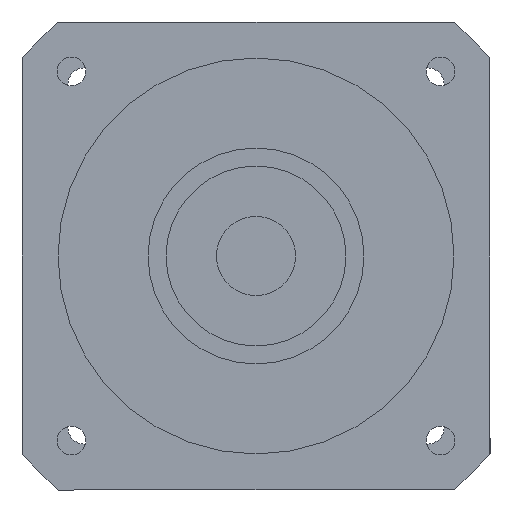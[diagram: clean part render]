
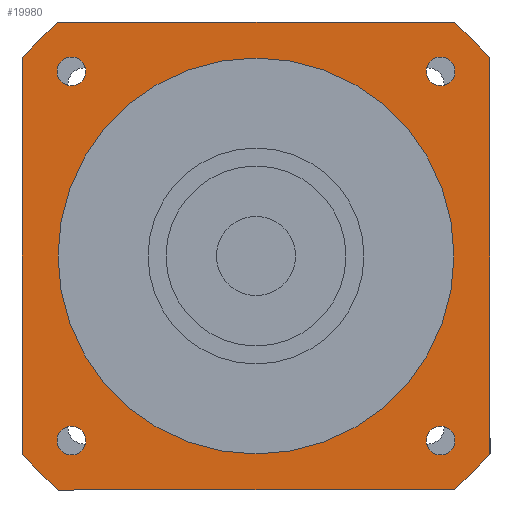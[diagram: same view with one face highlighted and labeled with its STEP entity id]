
A CAD part, left-side view. The second image highlights one B-rep face of the part: STEP entity #19980.
In plain terms, the highlighted planar face has unit normal (-1, 0, 0) as drawn and (0, 0, -1) by its records, which use the part's own axes.
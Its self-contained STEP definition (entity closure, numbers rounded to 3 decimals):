
#15990=CARTESIAN_POINT('',(-65.,54.772,-138.));
#16000=VERTEX_POINT('',#15990);
#16150=CARTESIAN_POINT('',(-65.,-54.772,-138.));
#16160=VERTEX_POINT('',#16150);
#16190=CARTESIAN_POINT('',(-65.,65.,-138.));
#16200=DIRECTION('',(0.,-1.,0.));
#16210=VECTOR('',#16200,1000.);
#16220=LINE('',#16190,#16210);
#16230=EDGE_CURVE('',#16000,#16160,#16220,.T.);
#16390=CARTESIAN_POINT('',(54.772,65.,-138.));
#16400=VERTEX_POINT('',#16390);
#16550=CARTESIAN_POINT('',(-54.772,65.,-138.));
#16560=VERTEX_POINT('',#16550);
#16590=CARTESIAN_POINT('',(65.,65.,-138.));
#16600=DIRECTION('',(-1.,0.,0.));
#16610=VECTOR('',#16600,1000.);
#16620=LINE('',#16590,#16610);
#16630=EDGE_CURVE('',#16400,#16560,#16620,.T.);
#18420=CARTESIAN_POINT('',(0.,0.,
-138.));
#18430=DIRECTION('',(0.,0.,1.));
#18440=DIRECTION('',(0.,-1.,0.));
#18450=AXIS2_PLACEMENT_3D('',#18420,#18430,#18440);
#18460=CIRCLE('',#18450,85.);
#18470=EDGE_CURVE('',#16560,#16000,#18460,.T.);
#18520=CARTESIAN_POINT('',(-65.,65.,-138.));
#18530=DIRECTION('',(0.,0.,1.));
#18540=DIRECTION('',(-1.,0.,0.));
#18550=AXIS2_PLACEMENT_3D('',#18520,#18530,#18540);
#18560=PLANE('',#18550);
#18570=CARTESIAN_POINT('',(51.265,-51.265,-138.));
#18580=DIRECTION('',(0.,0.,-1.));
#18590=DIRECTION('',(1.,0.,0.));
#18600=AXIS2_PLACEMENT_3D('',#18570,#18580,#18590);
#18610=CIRCLE('',#18600,4.);
#18620=CARTESIAN_POINT('',(55.265,-51.265,-138.));
#18630=VERTEX_POINT('',#18620);
#18640=CARTESIAN_POINT('',(51.265,-55.265,-138.));
#18650=VERTEX_POINT('',#18640);
#18660=EDGE_CURVE('',#18630,#18650,#18610,.T.);
#18670=ORIENTED_EDGE('',*,*,#18660,.F.);
#18680=CARTESIAN_POINT('',(51.265,-47.265,-138.));
#18690=VERTEX_POINT('',#18680);
#18700=EDGE_CURVE('',#18650,#18690,#18610,.T.);
#18710=ORIENTED_EDGE('',*,*,#18700,.F.);
#18720=EDGE_CURVE('',#18690,#18630,#18610,.T.);
#18730=ORIENTED_EDGE('',*,*,#18720,.F.);
#18740=EDGE_LOOP('',(#18730,#18710,#18670));
#18750=FACE_BOUND('',#18740,.T.);
#18760=CARTESIAN_POINT('',(51.265,51.265,-138.));
#18770=DIRECTION('',(0.,0.,-1.));
#18780=DIRECTION('',(0.,1.,0.));
#18790=AXIS2_PLACEMENT_3D('',#18760,#18770,#18780);
#18800=CIRCLE('',#18790,4.);
#18810=CARTESIAN_POINT('',(51.265,55.265,-138.));
#18820=VERTEX_POINT('',#18810);
#18830=CARTESIAN_POINT('',(55.265,51.265,-138.));
#18840=VERTEX_POINT('',#18830);
#18850=EDGE_CURVE('',#18820,#18840,#18800,.T.);
#18860=ORIENTED_EDGE('',*,*,#18850,.F.);
#18870=CARTESIAN_POINT('',(47.265,51.265,-138.));
#18880=VERTEX_POINT('',#18870);
#18890=EDGE_CURVE('',#18840,#18880,#18800,.T.);
#18900=ORIENTED_EDGE('',*,*,#18890,.F.);
#18910=EDGE_CURVE('',#18880,#18820,#18800,.T.);
#18920=ORIENTED_EDGE('',*,*,#18910,.F.);
#18930=EDGE_LOOP('',(#18920,#18900,#18860));
#18940=FACE_BOUND('',#18930,.T.);
#18950=CARTESIAN_POINT('',(-51.265,51.265,-138.));
#18960=DIRECTION('',(0.,0.,-1.));
#18970=DIRECTION('',(-1.,0.,0.));
#18980=AXIS2_PLACEMENT_3D('',#18950,#18960,#18970);
#18990=CIRCLE('',#18980,4.);
#19000=CARTESIAN_POINT('',(-55.265,51.265,-138.));
#19010=VERTEX_POINT('',#19000);
#19020=CARTESIAN_POINT('',(-51.265,55.265,-138.));
#19030=VERTEX_POINT('',#19020);
#19040=EDGE_CURVE('',#19010,#19030,#18990,.T.);
#19050=ORIENTED_EDGE('',*,*,#19040,.F.);
#19060=CARTESIAN_POINT('',(-51.265,47.265,-138.));
#19070=VERTEX_POINT('',#19060);
#19080=EDGE_CURVE('',#19030,#19070,#18990,.T.);
#19090=ORIENTED_EDGE('',*,*,#19080,.F.);
#19100=EDGE_CURVE('',#19070,#19010,#18990,.T.);
#19110=ORIENTED_EDGE('',*,*,#19100,.F.);
#19120=EDGE_LOOP('',(#19110,#19090,#19050));
#19130=FACE_BOUND('',#19120,.T.);
#19140=CARTESIAN_POINT('',(-51.265,-51.265,-138.));
#19150=DIRECTION('',(0.,0.,-1.));
#19160=DIRECTION('',(0.,-1.,0.));
#19170=AXIS2_PLACEMENT_3D('',#19140,#19150,#19160);
#19180=CIRCLE('',#19170,4.);
#19190=CARTESIAN_POINT('',(-51.265,-55.265,-138.));
#19200=VERTEX_POINT('',#19190);
#19210=CARTESIAN_POINT('',(-55.265,-51.265,-138.));
#19220=VERTEX_POINT('',#19210);
#19230=EDGE_CURVE('',#19200,#19220,#19180,.T.);
#19240=ORIENTED_EDGE('',*,*,#19230,.F.);
#19250=CARTESIAN_POINT('',(-47.265,-51.265,-138.));
#19260=VERTEX_POINT('',#19250);
#19270=EDGE_CURVE('',#19220,#19260,#19180,.T.);
#19280=ORIENTED_EDGE('',*,*,#19270,.F.);
#19290=EDGE_CURVE('',#19260,#19200,#19180,.T.);
#19300=ORIENTED_EDGE('',*,*,#19290,.F.);
#19310=EDGE_LOOP('',(#19300,#19280,#19240));
#19320=FACE_BOUND('',#19310,.T.);
#19330=CARTESIAN_POINT('',(0.,0.,
-138.));
#19340=DIRECTION('',(0.,0.,1.));
#19350=DIRECTION('',(0.,-1.,0.));
#19360=AXIS2_PLACEMENT_3D('',#19330,#19340,#19350);
#19370=CIRCLE('',#19360,85.);
#19380=CARTESIAN_POINT('',(-54.772,-65.,-138.));
#19390=VERTEX_POINT('',#19380);
#19400=EDGE_CURVE('',#16160,#19390,#19370,.T.);
#19410=ORIENTED_EDGE('',*,*,#19400,.F.);
#19420=CARTESIAN_POINT('',(-65.,-65.,-138.));
#19430=DIRECTION('',(1.,0.,0.));
#19440=VECTOR('',#19430,1000.);
#19450=LINE('',#19420,#19440);
#19460=CARTESIAN_POINT('',(54.772,-65.,-138.));
#19470=VERTEX_POINT('',#19460);
#19480=EDGE_CURVE('',#19390,#19470,#19450,.T.);
#19490=ORIENTED_EDGE('',*,*,#19480,.F.);
#19500=CARTESIAN_POINT('',(0.,0.,
-138.));
#19510=DIRECTION('',(0.,0.,1.));
#19520=DIRECTION('',(0.,-1.,0.));
#19530=AXIS2_PLACEMENT_3D('',#19500,#19510,#19520);
#19540=CIRCLE('',#19530,85.);
#19550=CARTESIAN_POINT('',(65.,-54.772,-138.));
#19560=VERTEX_POINT('',#19550);
#19570=EDGE_CURVE('',#19470,#19560,#19540,.T.);
#19580=ORIENTED_EDGE('',*,*,#19570,.F.);
#19590=CARTESIAN_POINT('',(65.,-65.,-138.));
#19600=DIRECTION('',(0.,1.,0.));
#19610=VECTOR('',#19600,1000.);
#19620=LINE('',#19590,#19610);
#19630=CARTESIAN_POINT('',(65.,54.772,-138.));
#19640=VERTEX_POINT('',#19630);
#19650=EDGE_CURVE('',#19560,#19640,#19620,.T.);
#19660=ORIENTED_EDGE('',*,*,#19650,.F.);
#19670=CARTESIAN_POINT('',(0.,0.,
-138.));
#19680=DIRECTION('',(0.,0.,1.));
#19690=DIRECTION('',(0.,-1.,0.));
#19700=AXIS2_PLACEMENT_3D('',#19670,#19680,#19690);
#19710=CIRCLE('',#19700,85.);
#19720=EDGE_CURVE('',#19640,#16400,#19710,.T.);
#19730=ORIENTED_EDGE('',*,*,#19720,.F.);
#19740=ORIENTED_EDGE('',*,*,#16630,.F.);
#19750=ORIENTED_EDGE('',*,*,#18470,.F.);
#19760=ORIENTED_EDGE('',*,*,#16230,.F.);
#19770=EDGE_LOOP('',(#19760,#19750,#19740,#19730,#19660,#19580,#19490,
#19410));
#19780=FACE_OUTER_BOUND('',#19770,.T.);
#19790=CARTESIAN_POINT('',(0.,0.,
-138.));
#19800=DIRECTION('',(0.,0.,1.));
#19810=DIRECTION('',(0.,-1.,0.));
#19820=AXIS2_PLACEMENT_3D('',#19790,#19800,#19810);
#19830=CIRCLE('',#19820,55.);
#19840=CARTESIAN_POINT('',(55.,0.,-138.));
#19850=VERTEX_POINT('',#19840);
#19860=CARTESIAN_POINT('',(-55.,0.,-138.));
#19870=VERTEX_POINT('',#19860);
#19880=EDGE_CURVE('',#19850,#19870,#19830,.T.);
#19890=ORIENTED_EDGE('',*,*,#19880,.T.);
#19900=CARTESIAN_POINT('',(0.,-55.,-138.));
#19910=VERTEX_POINT('',#19900);
#19920=EDGE_CURVE('',#19910,#19850,#19830,.T.);
#19930=ORIENTED_EDGE('',*,*,#19920,.T.);
#19940=EDGE_CURVE('',#19870,#19910,#19830,.T.);
#19950=ORIENTED_EDGE('',*,*,#19940,.T.);
#19960=EDGE_LOOP('',(#19950,#19930,#19890));
#19970=FACE_BOUND('',#19960,.T.);
#19980=ADVANCED_FACE('',(#18750,#18940,#19130,#19320,#19780,#19970),
#18560,.F.);
